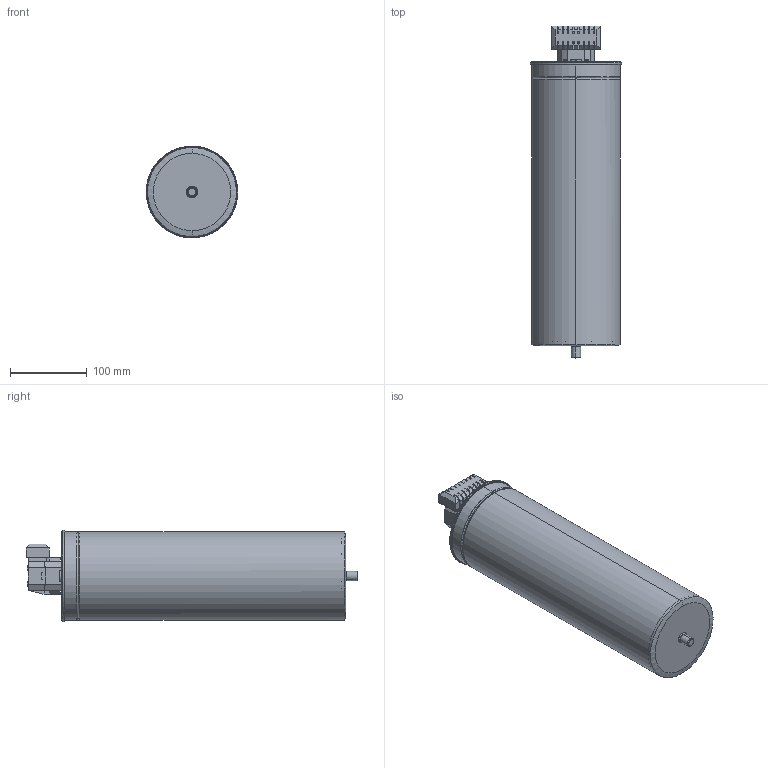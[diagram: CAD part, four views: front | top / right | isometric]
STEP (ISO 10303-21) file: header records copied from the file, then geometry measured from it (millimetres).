
FILE_DESCRIPTION (( 'STEP AP203' ), '1' );
FILE_NAME ('m ENT.CXD-525-40 Üç Fazlý Kondansatör.STEP', '2022-12-26T06:30:36', ( '' ), ( '' ), 'SwSTEP 2.0', 'SolidWorks 2021', '' );
FILE_SCHEMA (( 'CONFIG_CONTROL_DESIGN' ));
Length unit declared in the file: millimetre
Products named in the file (25): 316181767_AGGRAFF; 316163557; 316200500_CIANFRINATO_2; 157020241; 316523440; CUST116X370_AGGR; 316191880_2; 316170520_SCHIACCIATO; 316163570; 316191900_1; 157020241_1; 316191880_1; 316191900_2; 316200500_CIANFRINATO_1; m ENT.CXD-525-40 Üç Fazlý Kondansatör; 316163571; 316163554; 157020241_2; 316200500_CIANFRINATO; 316191900; 316170520_SCHIACCIATO_1; 316170520_SCHIACCIATO_2; 316191880; 31614_D116_AGGR; 316043790
Assembly tree (24 placements, depth 3):
  m ENT.CXD-525-40 Üç Fazlý Kondansatör
    CUST116X370_AGGR
    31614_D116_AGGR
      316181767_AGGRAFF
      316170520_SCHIACCIATO
      316170520_SCHIACCIATO_1
      316170520_SCHIACCIATO_2
      316043790
      316163554
      316191880
      316191880_1
      316191880_2
      316200500_CIANFRINATO
      316200500_CIANFRINATO_1
      316200500_CIANFRINATO_2
    316163557
    316523440
      316191900
      316191900_1
      316191900_2
      316163570
      316163571
      157020241
      157020241_1
      157020241_2
Bounding box: 119.4 x 432.9 x 119.39 mm (x, y, z)
Volume: 50572.8 mm3; surface area: 393666.2 mm2
Topology: 21 solids, 24 shells, 1472 faces, 3978 edges, 2574 vertices
Faces by surface type: plane 1041, bspline 431
Entity records: 86574 total; most frequent: CARTESIAN_POINT 50362, ORIENTED_EDGE 7952, DIRECTION 4982, EDGE_CURVE 3978, VECTOR 2840, LINE 2840, VERTEX_POINT 2574, EDGE_LOOP 1602
